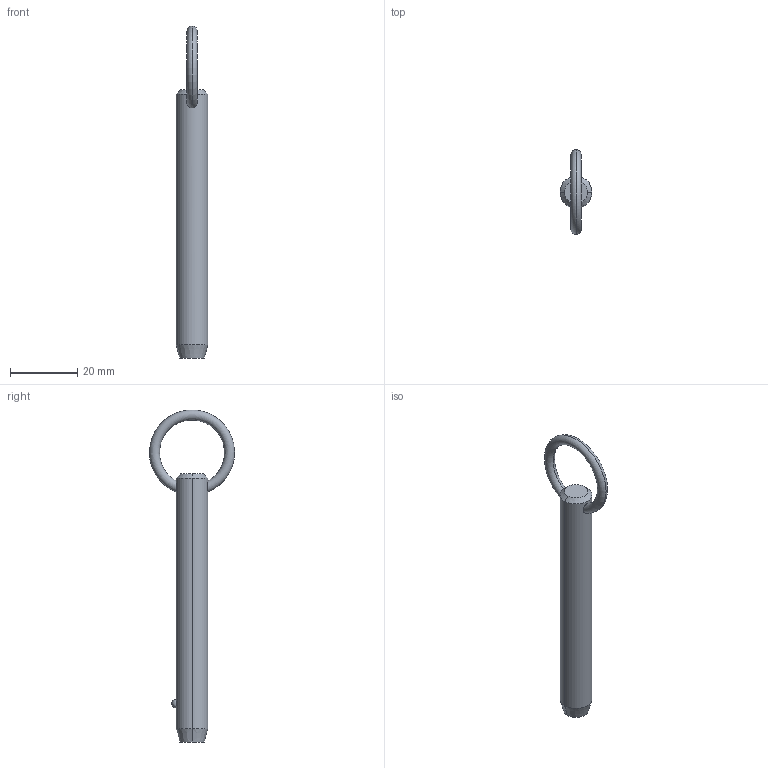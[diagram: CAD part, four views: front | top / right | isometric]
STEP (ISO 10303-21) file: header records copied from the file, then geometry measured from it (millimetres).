
FILE_DESCRIPTION (( 'STEP AP203' ), '1' );
FILE_NAME ('P1250.037-240.step', '2019-07-29T20:02:23', ( '' ), ( '' ), 'SwSTEP 2.0', 'SolidWorks 2017', '' );
FILE_SCHEMA (( 'CONFIG_CONTROL_DESIGN' ));
Length unit declared in the file: millimetre
Products named in the file (1): P1250.037-240
Bounding box: 9.52 x 25.39 x 99.1 mm (x, y, z)
Volume: 6049.2 mm3; surface area: 3036.3 mm2
Topology: 1 solids, 1 shells, 12 faces, 28 edges, 17 vertices
Faces by surface type: cone 4, torus 2, sphere 2, cylinder 2, plane 2
Entity records: 523 total; most frequent: CARTESIAN_POINT 190, DIRECTION 56, ORIENTED_EDGE 48, AXIS2_PLACEMENT_3D 25, EDGE_CURVE 24, EDGE_LOOP 15, VERTEX_POINT 15, CIRCLE 12
